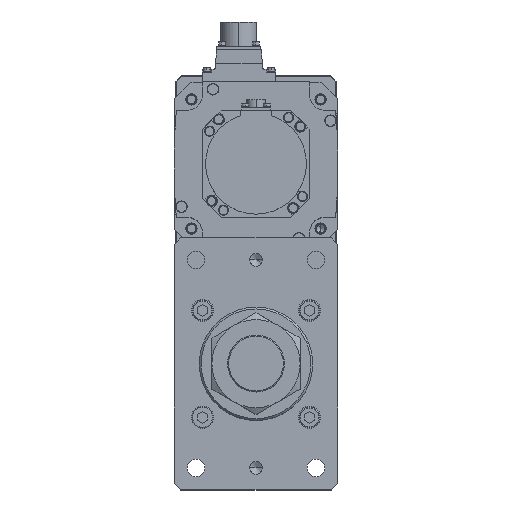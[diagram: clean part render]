
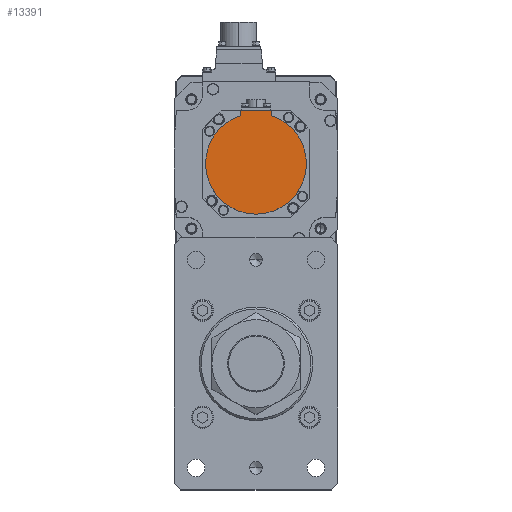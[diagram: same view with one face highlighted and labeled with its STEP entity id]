
A CAD part, top view. The second image highlights one B-rep face of the part: STEP entity #13391.
In plain terms, the highlighted planar face has unit normal (0, 0, 1) as drawn and (0, 0, -1) by its records, which use the part's own axes.
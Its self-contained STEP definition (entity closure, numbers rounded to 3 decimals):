
#816 = ORIENTED_EDGE ( 'NONE', *, *, #8114, .F. ) ;
#1406 = DIRECTION ( 'NONE',  ( -1., 0., 0. ) ) ;
#2106 = VECTOR ( 'NONE', #12910, 1000. ) ;
#3284 = ORIENTED_EDGE ( 'NONE', *, *, #22105, .F. ) ;
#3395 = DIRECTION ( 'NONE',  ( 0., 0., 1. ) ) ;
#3424 = CARTESIAN_POINT ( 'NONE',  ( 0., 0., -146.5 ) ) ;
#3518 = VERTEX_POINT ( 'NONE', #8918 ) ;
#3642 = VECTOR ( 'NONE', #1406, 1000. ) ;
#3784 = LINE ( 'NONE', #18404, #22598 ) ;
#3926 = DIRECTION ( 'NONE',  ( 1., 0., 0. ) ) ;
#6629 = DIRECTION ( 'NONE',  ( 0., 0., 1. ) ) ;
#7184 = CARTESIAN_POINT ( 'NONE',  ( -12., -42.5, -146.5 ) ) ;
#7232 = EDGE_LOOP ( 'NONE', ( #16344, #816, #3284, #17463, #20442, #23304 ) ) ;
#8114 = EDGE_CURVE ( 'NONE', #14298, #3518, #34509, .T. ) ;
#8918 = CARTESIAN_POINT ( 'NONE',  ( -12., -38.158, -146.5 ) ) ;
#9550 = PLANE ( 'NONE',  #14476 ) ;
#12910 = DIRECTION ( 'NONE',  ( 0., 1., 0. ) ) ;
#12988 = AXIS2_PLACEMENT_3D ( 'NONE', #33723, #17733, #22659 ) ;
#13254 = CARTESIAN_POINT ( 'NONE',  ( 12., -1.249, -146.5 ) ) ;
#13391 = ADVANCED_FACE ( 'NONE', ( #32419 ), #9550, .F. ) ;
#13784 = EDGE_CURVE ( 'NONE', #24974, #26074, #19469, .T. ) ;
#13847 = CARTESIAN_POINT ( 'NONE',  ( 0., 0., -146.5 ) ) ;
#14298 = VERTEX_POINT ( 'NONE', #18819 ) ;
#14322 = VERTEX_POINT ( 'NONE', #27295 ) ;
#14476 = AXIS2_PLACEMENT_3D ( 'NONE', #28082, #6629, #3926 ) ;
#16344 = ORIENTED_EDGE ( 'NONE', *, *, #29146, .T. ) ;
#17069 = LINE ( 'NONE', #25020, #3642 ) ;
#17463 = ORIENTED_EDGE ( 'NONE', *, *, #13784, .F. ) ;
#17733 = DIRECTION ( 'NONE',  ( 0., 0., 1. ) ) ;
#18404 = CARTESIAN_POINT ( 'NONE',  ( -12., -40.329, -146.5 ) ) ;
#18486 = AXIS2_PLACEMENT_3D ( 'NONE', #3424, #30479, #19773 ) ;
#18816 = CARTESIAN_POINT ( 'NONE',  ( 40., 0., -146.5 ) ) ;
#18819 = CARTESIAN_POINT ( 'NONE',  ( -40., 0., -146.5 ) ) ;
#19469 = CIRCLE ( 'NONE', #18486, 40. ) ;
#19773 = DIRECTION ( 'NONE',  ( 1., 0., 0. ) ) ;
#20442 = ORIENTED_EDGE ( 'NONE', *, *, #22511, .F. ) ;
#20957 = AXIS2_PLACEMENT_3D ( 'NONE', #13847, #3395, #22228 ) ;
#21738 = VERTEX_POINT ( 'NONE', #7184 ) ;
#22105 = EDGE_CURVE ( 'NONE', #26074, #14298, #30108, .T. ) ;
#22228 = DIRECTION ( 'NONE',  ( 1., 0., 0. ) ) ;
#22511 = EDGE_CURVE ( 'NONE', #14322, #24974, #32206, .T. ) ;
#22598 = VECTOR ( 'NONE', #26327, 1000. ) ;
#22659 = DIRECTION ( 'NONE',  ( 1., 0., 0. ) ) ;
#23304 = ORIENTED_EDGE ( 'NONE', *, *, #33163, .T. ) ;
#24974 = VERTEX_POINT ( 'NONE', #27970 ) ;
#25020 = CARTESIAN_POINT ( 'NONE',  ( 0., -42.5, -146.5 ) ) ;
#26074 = VERTEX_POINT ( 'NONE', #18816 ) ;
#26327 = DIRECTION ( 'NONE',  ( 0., 1., 0. ) ) ;
#27295 = CARTESIAN_POINT ( 'NONE',  ( 12., -42.5, -146.5 ) ) ;
#27970 = CARTESIAN_POINT ( 'NONE',  ( 12., -38.158, -146.5 ) ) ;
#28082 = CARTESIAN_POINT ( 'NONE',  ( 0., -1.249, -146.5 ) ) ;
#29146 = EDGE_CURVE ( 'NONE', #21738, #3518, #3784, .T. ) ;
#30108 = CIRCLE ( 'NONE', #20957, 40. ) ;
#30479 = DIRECTION ( 'NONE',  ( 0., 0., 1. ) ) ;
#32206 = LINE ( 'NONE', #13254, #2106 ) ;
#32419 = FACE_OUTER_BOUND ( 'NONE', #7232, .T. ) ;
#33163 = EDGE_CURVE ( 'NONE', #14322, #21738, #17069, .T. ) ;
#33723 = CARTESIAN_POINT ( 'NONE',  ( 0., 0., -146.5 ) ) ;
#34509 = CIRCLE ( 'NONE', #12988, 40. ) ;
